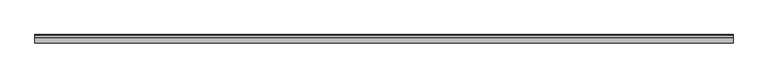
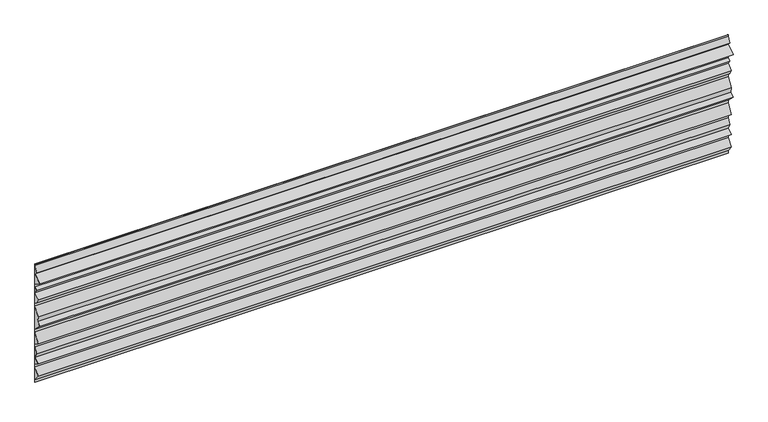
"""IFC4 building model written with IfcOpenShell, lengths in millimetres: plate geometry, ATELIERS 3S_GLACE JORASSES 900_HORIZONTAL : AZURO."""

from ifc_helpers import new_model, si_unit, frame, origin, place, context, project, spatial, polyline, outline, extrude, source, transform, mapped, element, save


def plate_addd3eff(model_context):
    return source(origin(), model_context, "Body", "SweptSolid", [
        extrude(outline(polyline([(-0.8, 0.0), (-0.8, 17.5947955), (-40.9604686, 67.7953813), (-0.75, 118.0584671), (-0.75, 137.3796955), (-41.4150972, 162.7953813), (-0.9758045, 188.0699392), (-20.8385255, 227.7953813), (-0.75, 267.9724323), (-0.75, 287.4203813), (-40.9972765, 317.6058386), (-0.75, 383.0076629), (-0.75, 402.4847211), (-61.1509172, 462.8856383), (-33.3290095, 483.1230982), (-40.7934056, 522.9573546), (-0.75, 583.022463), (-0.75, 602.4203813), (-20.572781, 617.287467), (-40.9801401, 652.6340499), (-1.015923, 682.9658755), (-21.017335, 712.901248), (-0.75, 728.1693823), (-0.75, 747.3939934), (-61.3520817, 787.7953813), (-1.1833465, 827.9078714), (-20.9020366, 847.3196512), (-0.8, 890.8519068), (-0.8, 900.0), (0.0, 900.0), (0.0, 0.0), (-0.8, 0.0)])), frame((-2500.0, 0.0, 0.0), z_axis=(1.0, 0.0, 0.0), x_axis=(0.0, 1.0, 0.0)), (0.0, 0.0, 1.0), 5000.0),
    ])


if __name__ == "__main__":
    model = new_model("IFC4")
    model_context = context("Model", 3, world=origin())
    ifc_project = project(units=[si_unit("LENGTHUNIT", "METRE", prefix="MILLI")], contexts=[model_context])
    site = spatial("IfcSite", under=ifc_project)
    building = spatial("IfcBuilding", under=site)
    placement = place(None, origin())
    plate_shape = plate_addd3eff(model_context)
    element("IfcPlate", 1, ObjectType="ATELIERS 3S_GLACE JORASSES 900_HORIZONTAL : AZURO", at=placement, inside=building, context=model_context, shape_type="MappedRepresentation", body=[
        mapped(plate_shape, transform((0.0, 0.0, 0.0), x_axis=(1.0, 0.0, 0.0), y_axis=(0.0, 1.0, 0.0), z_axis=(0.0, 0.0, 1.0))),
    ])
    save(model, "model.ifc")
